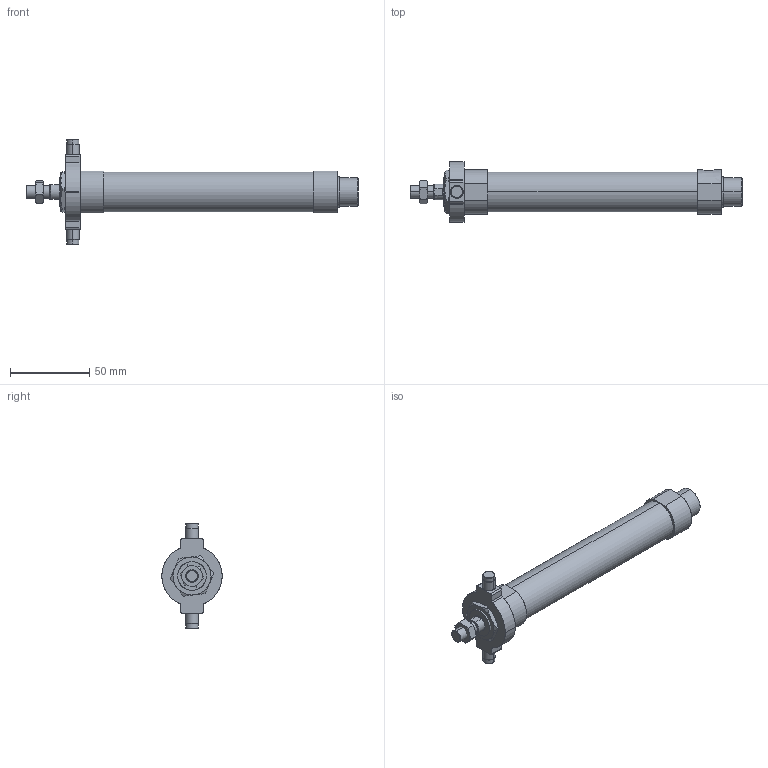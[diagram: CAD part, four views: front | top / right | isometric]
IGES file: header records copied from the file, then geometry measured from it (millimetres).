
Start section: SolidWorks IGES file using analytic representation for surfaces
Global section: file name: C:\Users\Toshiba\Desktop\J#1-20-50-T.IGS; native system: SolidWorks 2014; preprocessor: SolidWorks 2014; author: Toshiba; date: 160308.144507; units: millimetre
Bounding box: 209 x 38 x 66 mm (x, y, z)
Surface area: 22491.2 mm2 (no closed solid volume)
Topology: 0 solids, 0 shells, 128 faces, 2018 edges, 2018 vertices
Faces by surface type: bspline 69, revolution 59
